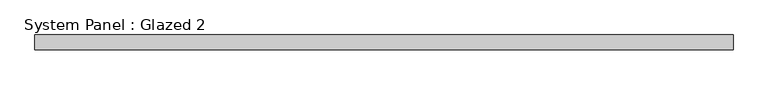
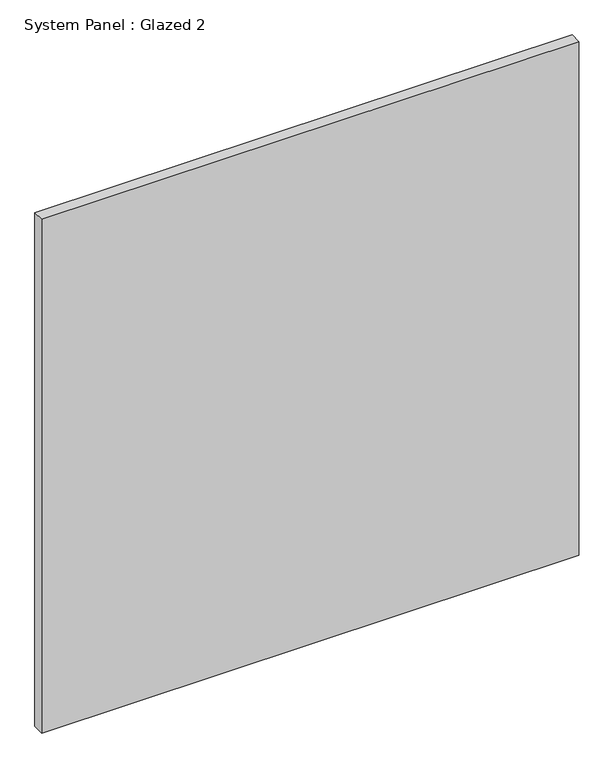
"""IFC4 building model written with IfcOpenShell, lengths in millimetres: plate geometry, System Panel : Glazed 2."""

from ifc_helpers import new_model, si_unit, origin, origin_with_axes, place, context, project, spatial, polyline, outline, extrude, source, transform, mapped, element, save


def system_panel_glazed_2_f283b373(model_context):
    return source(origin(), model_context, "Body", "SweptSolid", [
        extrude(outline(polyline([(590.6, -44.45), (-590.6, -44.45), (-590.6, -19.05), (590.6, -19.05), (590.6, -44.45)])), origin_with_axes(), (0.0, 0.0, 1.0), 1193.8),
    ])


if __name__ == "__main__":
    model = new_model("IFC4")
    model_context = context("Model", 3, world=origin())
    ifc_project = project(units=[si_unit("LENGTHUNIT", "METRE", prefix="MILLI")], contexts=[model_context])
    site = spatial("IfcSite", under=ifc_project)
    building = spatial("IfcBuilding", under=site)
    placement = place(None, origin())
    system_panel_glazed_2_shape = system_panel_glazed_2_f283b373(model_context)
    element("IfcPlate", 1, ObjectType="System Panel : Glazed 2", at=placement, inside=building, context=model_context, shape_type="MappedRepresentation", body=[
        mapped(system_panel_glazed_2_shape, transform((0.0, 0.0, 0.0), x_axis=(1.0, 0.0, 0.0), y_axis=(0.0, 1.0, 0.0), z_axis=(0.0, 0.0, 1.0))),
    ])
    save(model, "model.ifc")
